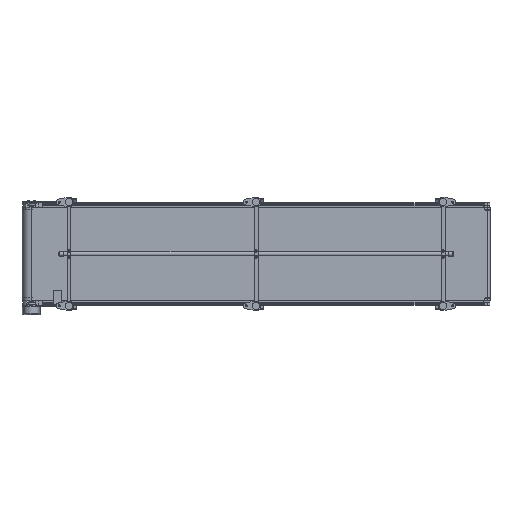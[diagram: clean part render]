
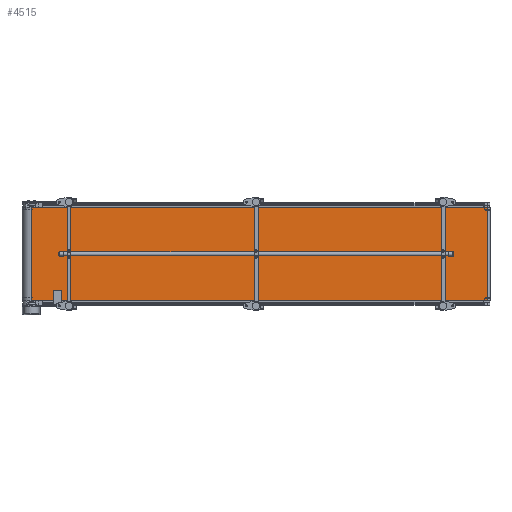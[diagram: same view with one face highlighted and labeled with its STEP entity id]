
A CAD part, front view. The second image highlights one B-rep face of the part: STEP entity #4515.
In plain terms, the highlighted planar face has unit normal (0.028, -1, 0).
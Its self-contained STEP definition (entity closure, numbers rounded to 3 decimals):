
#4515=ADVANCED_FACE('',(#29544),#29543,.F.);
#29543=PLANE('',#45259);
#29544=FACE_OUTER_BOUND('',#45260,.T.);
#45256=CARTESIAN_POINT('',(2992.998,-33.417,-310.));
#45257=DIRECTION('',(-0.028,1.,0.));
#45258=DIRECTION('',(-1.,-0.028,0.));
#45259=AXIS2_PLACEMENT_3D('',#45256,#45257,#45258);
#45260=EDGE_LOOP('',(#58138,#58139,#58140,#58141));
#58138=ORIENTED_EDGE('',*,*,#64959,.T.);
#58139=ORIENTED_EDGE('',*,*,#64966,.F.);
#58140=ORIENTED_EDGE('',*,*,#64953,.F.);
#58141=ORIENTED_EDGE('',*,*,#64967,.T.);
#64953=EDGE_CURVE('',#106003,#105988,#106010,.T.);
#64959=EDGE_CURVE('',#106052,#106044,#106053,.T.);
#64966=EDGE_CURVE('',#105988,#106044,#106100,.T.);
#64967=EDGE_CURVE('',#106003,#106052,#106106,.T.);
#105988=VERTEX_POINT('',#133263);
#106003=VERTEX_POINT('',#133273);
#106010=LINE('',#133278,#133279);
#106044=VERTEX_POINT('',#133299);
#106052=VERTEX_POINT('',#133305);
#106053=LINE('',#133306,#133307);
#106100=LINE('',#133335,#133336);
#106106=LINE('',#133338,#133339);
#133263=CARTESIAN_POINT('',(2983.002,-33.693,300.));
#133273=CARTESIAN_POINT('',(59.109,-114.328,300.));
#133278=CARTESIAN_POINT('',(59.109,-114.328,300.));
#133279=VECTOR('',#133280,2925.005);
#133280=DIRECTION('',(1.,0.028,0.));
#133299=CARTESIAN_POINT('',(2983.002,-33.693,-300.));
#133305=CARTESIAN_POINT('',(59.109,-114.328,-300.));
#133306=CARTESIAN_POINT('',(59.109,-114.328,-300.));
#133307=VECTOR('',#133308,2925.005);
#133308=DIRECTION('',(1.,0.028,0.));
#133335=CARTESIAN_POINT('',(2983.002,-33.693,300.));
#133336=VECTOR('',#133337,600.);
#133337=DIRECTION('',(0.,0.,-1.));
#133338=CARTESIAN_POINT('',(59.109,-114.328,300.));
#133339=VECTOR('',#133340,600.);
#133340=DIRECTION('',(0.,0.,-1.));
